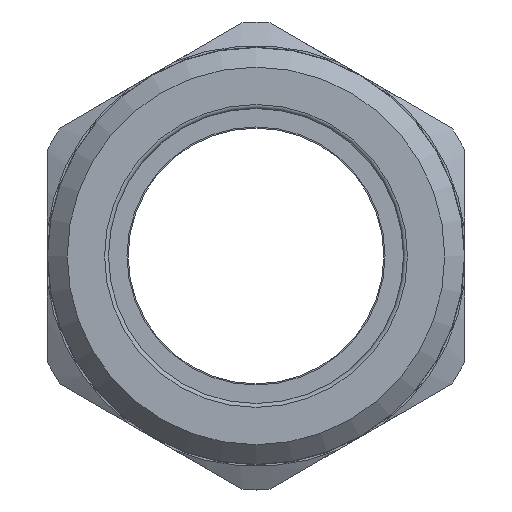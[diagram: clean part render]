
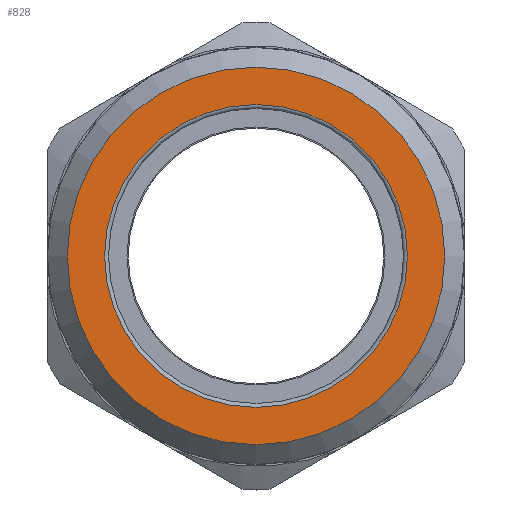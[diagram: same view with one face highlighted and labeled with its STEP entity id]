
A CAD part, front view. The second image highlights one B-rep face of the part: STEP entity #828.
In plain terms, the highlighted planar face has unit normal (0, -1, 0).
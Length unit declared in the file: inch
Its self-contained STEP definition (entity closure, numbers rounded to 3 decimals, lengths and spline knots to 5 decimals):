
#58=FACE_BOUND('',#151,.T.);
#67=PLANE('',#922);
#97=FACE_OUTER_BOUND('',#150,.T.);
#150=EDGE_LOOP('',(#619));
#151=EDGE_LOOP('',(#620,#621));
#291=CIRCLE('',#919,0.385);
#292=CIRCLE('',#920,0.385);
#294=CIRCLE('',#923,0.48);
#361=VERTEX_POINT('',#1354);
#362=VERTEX_POINT('',#1356);
#363=VERTEX_POINT('',#1361);
#456=EDGE_CURVE('',#361,#362,#291,.T.);
#457=EDGE_CURVE('',#362,#361,#292,.T.);
#459=EDGE_CURVE('',#363,#363,#294,.T.);
#619=ORIENTED_EDGE('',*,*,#459,.F.);
#620=ORIENTED_EDGE('',*,*,#457,.F.);
#621=ORIENTED_EDGE('',*,*,#456,.F.);
#828=ADVANCED_FACE('',(#97,#58),#67,.T.);
#919=AXIS2_PLACEMENT_3D('',#1357,#1091,#1092);
#920=AXIS2_PLACEMENT_3D('',#1358,#1093,#1094);
#922=AXIS2_PLACEMENT_3D('',#1360,#1097,#1098);
#923=AXIS2_PLACEMENT_3D('',#1362,#1099,#1100);
#1091=DIRECTION('center_axis',(0.,-1.,0.));
#1092=DIRECTION('ref_axis',(0.,0.,1.));
#1093=DIRECTION('center_axis',(0.,-1.,0.));
#1094=DIRECTION('ref_axis',(0.,0.,1.));
#1097=DIRECTION('center_axis',(0.,-1.,0.));
#1098=DIRECTION('ref_axis',(0.,0.,-1.));
#1099=DIRECTION('center_axis',(0.,1.,0.));
#1100=DIRECTION('ref_axis',(0.,0.,1.));
#1354=CARTESIAN_POINT('',(0.,-1.,0.385));
#1356=CARTESIAN_POINT('',(0.,-1.,-0.385));
#1357=CARTESIAN_POINT('Origin',(0.,-1.,0.));
#1358=CARTESIAN_POINT('Origin',(0.,-1.,0.));
#1360=CARTESIAN_POINT('Origin',(0.,-1.,-0.375));
#1361=CARTESIAN_POINT('',(0.,-1.,-0.48));
#1362=CARTESIAN_POINT('Origin',(0.,-1.,0.));
